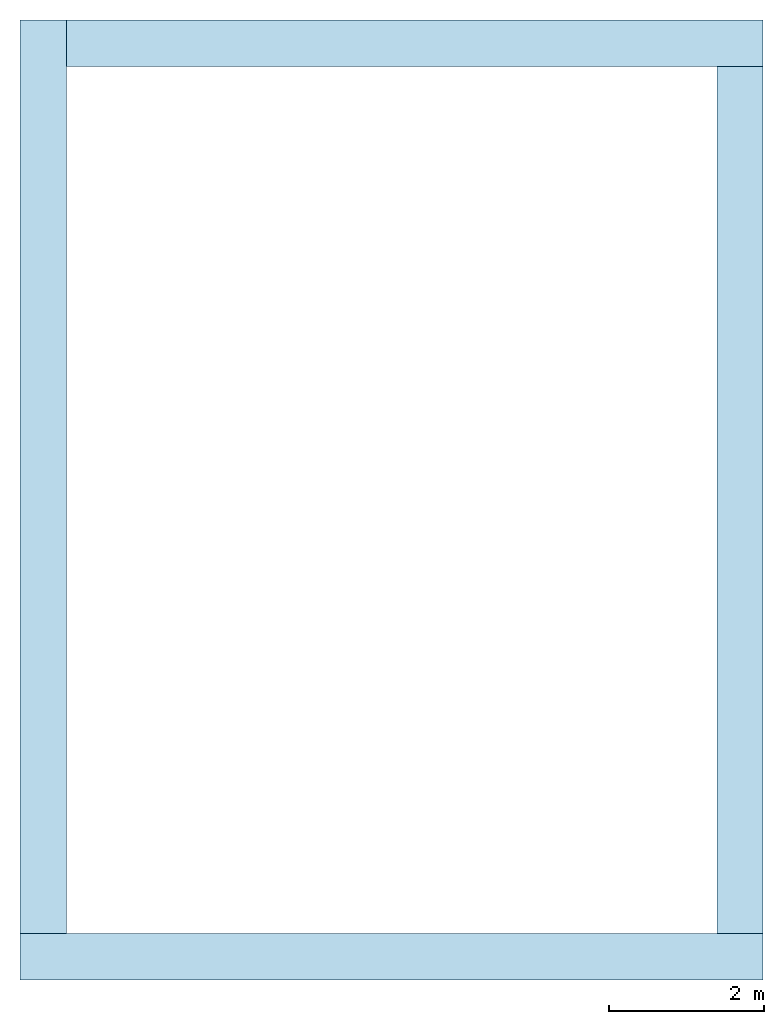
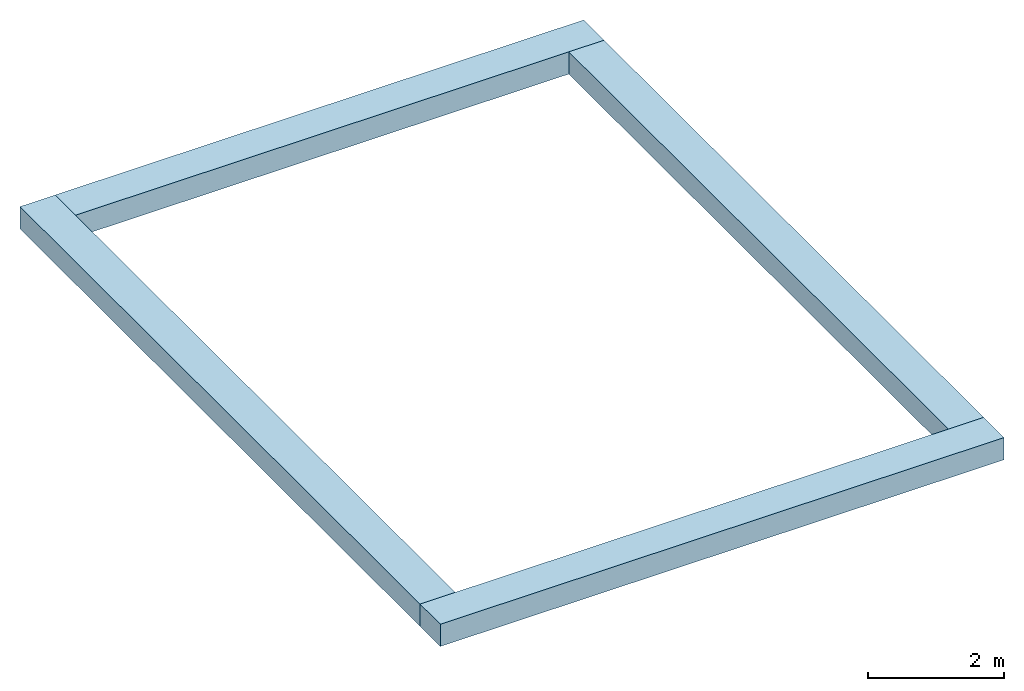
# One storey: 4 footings.
"""IFC2X3 building model written with IfcOpenShell, lengths in metres."""

from ifc_helpers import new_model, entity, si_unit, converted_unit, derived_unit, direction, frame, frame_2d, origin, place, context, subcontext, project, spatial, rectangle, extrude, material, element, save


model = new_model("IFC2X3")

# Units and contexts
model_context = context("Model", 3, precision=1e-05, world=origin(), true_north=direction((6.123031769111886e-17, 1.0)))
body_context = subcontext(model_context, "Body", "Model", "MODEL_VIEW")
ifc_project = project(units=[si_unit("LENGTHUNIT", "METRE"), si_unit("AREAUNIT", "SQUARE_METRE"), si_unit("VOLUMEUNIT", "CUBIC_METRE"), converted_unit("PLANEANGLEUNIT", "DEGREE", entity("IfcRatioMeasure", 0.017453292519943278), si_unit("PLANEANGLEUNIT", "RADIAN"), dimensions=[0, 0, 0, 0, 0, 0, 0]), si_unit("MASSUNIT", "GRAM", prefix="KILO"), derived_unit("MASSDENSITYUNIT", [(si_unit("MASSUNIT", "GRAM", prefix="KILO"), 1), (si_unit("LENGTHUNIT", "METRE"), -3)]), derived_unit("IONCONCENTRATIONUNIT", [(si_unit("MASSUNIT", "GRAM", prefix="KILO"), 1), (si_unit("LENGTHUNIT", "METRE"), -3)]), derived_unit("MOMENTOFINERTIAUNIT", [(si_unit("LENGTHUNIT", "METRE"), 4)]), si_unit("TIMEUNIT", "SECOND"), si_unit("FREQUENCYUNIT", "HERTZ"), si_unit("THERMODYNAMICTEMPERATUREUNIT", "DEGREE_CELSIUS"), derived_unit("THERMALTRANSMITTANCEUNIT", [(si_unit("MASSUNIT", "GRAM", prefix="KILO"), 1), (si_unit("THERMODYNAMICTEMPERATUREUNIT", "KELVIN"), -1), (si_unit("TIMEUNIT", "SECOND"), -3)]), derived_unit("THERMALCONDUCTANCEUNIT", [(si_unit("MASSUNIT", "GRAM", prefix="KILO"), 1), (si_unit("THERMODYNAMICTEMPERATUREUNIT", "KELVIN"), -1), (si_unit("TIMEUNIT", "SECOND"), -3), (si_unit("LENGTHUNIT", "METRE"), 1)]), derived_unit("VOLUMETRICFLOWRATEUNIT", [(si_unit("LENGTHUNIT", "METRE"), 3), (si_unit("TIMEUNIT", "SECOND"), -1)]), derived_unit("MASSFLOWRATEUNIT", [(si_unit("MASSUNIT", "GRAM", prefix="KILO"), 1), (si_unit("TIMEUNIT", "SECOND"), -1)]), derived_unit("ROTATIONALFREQUENCYUNIT", [(si_unit("TIMEUNIT", "SECOND"), -1)]), si_unit("ELECTRICCURRENTUNIT", "AMPERE"), si_unit("ELECTRICVOLTAGEUNIT", "VOLT"), si_unit("POWERUNIT", "WATT"), si_unit("FORCEUNIT", "NEWTON", prefix="KILO"), si_unit("ILLUMINANCEUNIT", "LUX"), si_unit("LUMINOUSFLUXUNIT", "LUMEN"), si_unit("LUMINOUSINTENSITYUNIT", "CANDELA"), derived_unit("USERDEFINED", [(si_unit("MASSUNIT", "GRAM", prefix="KILO"), -1), (si_unit("LENGTHUNIT", "METRE"), -2), (si_unit("TIMEUNIT", "SECOND"), 3), (si_unit("LUMINOUSFLUXUNIT", "LUMEN"), 1)]), derived_unit("USERDEFINED", [(si_unit("MASSUNIT", "GRAM", prefix="KILO"), 1), (si_unit("TIMEUNIT", "SECOND"), -3), (si_unit("LENGTHUNIT", "METRE"), 3), (si_unit("ELECTRICCURRENTUNIT", "AMPERE"), -2)]), derived_unit("SOUNDPOWERUNIT", [(si_unit("MASSUNIT", "GRAM", prefix="KILO"), 1), (si_unit("TIMEUNIT", "SECOND"), -3), (si_unit("LENGTHUNIT", "METRE"), 2)]), derived_unit("SOUNDPRESSUREUNIT", [(si_unit("MASSUNIT", "GRAM", prefix="KILO"), 1), (si_unit("LENGTHUNIT", "METRE"), -1), (si_unit("TIMEUNIT", "SECOND"), -2)]), derived_unit("LINEARVELOCITYUNIT", [(si_unit("LENGTHUNIT", "METRE"), 1), (si_unit("TIMEUNIT", "SECOND"), -1)]), si_unit("PRESSUREUNIT", "PASCAL"), derived_unit("USERDEFINED", [(si_unit("MASSUNIT", "GRAM", prefix="KILO"), 1), (si_unit("LENGTHUNIT", "METRE"), -2), (si_unit("TIMEUNIT", "SECOND"), -2)]), derived_unit("LINEARFORCEUNIT", [(si_unit("MASSUNIT", "GRAM", prefix="KILO"), 1), (si_unit("TIMEUNIT", "SECOND"), -2)]), derived_unit("PLANARFORCEUNIT", [(si_unit("MASSUNIT", "GRAM", prefix="KILO"), 1), (si_unit("LENGTHUNIT", "METRE"), -1), (si_unit("TIMEUNIT", "SECOND"), -2)]), derived_unit("SPECIFICHEATCAPACITYUNIT", [(si_unit("THERMODYNAMICTEMPERATUREUNIT", "KELVIN"), -1), (si_unit("LENGTHUNIT", "METRE"), 2), (si_unit("TIMEUNIT", "SECOND"), -2)]), derived_unit("HEATINGVALUEUNIT", [(si_unit("LENGTHUNIT", "METRE"), 2), (si_unit("TIMEUNIT", "SECOND"), -2)]), derived_unit("VAPORPERMEABILITYUNIT", [(si_unit("LENGTHUNIT", "METRE"), -1), (si_unit("TIMEUNIT", "SECOND"), 1)]), derived_unit("DYNAMICVISCOSITYUNIT", [(si_unit("MASSUNIT", "GRAM", prefix="KILO"), 1), (si_unit("TIMEUNIT", "SECOND"), -1), (si_unit("LENGTHUNIT", "METRE"), -1)]), derived_unit("THERMALEXPANSIONCOEFFICIENTUNIT", [(si_unit("THERMODYNAMICTEMPERATUREUNIT", "KELVIN"), -1)]), derived_unit("MODULUSOFELASTICITYUNIT", [(si_unit("MASSUNIT", "GRAM", prefix="KILO"), 1), (si_unit("LENGTHUNIT", "METRE"), -1), (si_unit("TIMEUNIT", "SECOND"), -2)]), derived_unit("ISOTHERMALMOISTURECAPACITYUNIT", [(si_unit("LENGTHUNIT", "METRE"), 3), (si_unit("MASSUNIT", "GRAM", prefix="KILO"), -1)]), derived_unit("MOISTUREDIFFUSIVITYUNIT", [(si_unit("TIMEUNIT", "SECOND"), -1), (si_unit("LENGTHUNIT", "METRE"), 2)])], contexts=[model_context])

# Site, building, storey
site_placement = place(None, frame((1.2553507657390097, -0.6266432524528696, -1.0397761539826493), z_axis=(0.0, 0.0, 1.0), x_axis=(-1.0, 0.0, 0.0)))
site = spatial("IfcSite", under=ifc_project, at=site_placement, Name="Default", CompositionType="ELEMENT")
building_placement = place(site_placement, origin())
building = spatial("IfcBuilding", under=site, at=building_placement, Name="MAISON D'HABITATION", CompositionType="ELEMENT")
storey_placement = place(building_placement, frame((0.0, 0.0, -0.1102238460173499)))
storey = spatial("IfcBuildingStorey", under=building, at=storey_placement, Name="Niveau ..", CompositionType="ELEMENT", Elevation=-0.1102238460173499)

# Footings
ifc_material = material(Name="Béton, coulé sur place")
footing_1_placement = place(storey_placement, origin())
element("IfcFooting", 1, at=footing_1_placement, inside=storey, material=ifc_material, Name="Semelle filante:Soubassement de soutènement - 300 x 600 x 300", ObjectType="Semelle filante:Soubassement de soutènement - 300 x 600 x 300", PredefinedType="STRIP_FOOTING", context=body_context, shape_type="SweptSolid", body=[
    extrude(rectangle(XDim=9.600000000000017, YDim=0.6000000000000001, at=frame_2d((-3.552713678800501e-15, 0.10000000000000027), x_axis=(1.0, 0.0))), frame((-0.2798669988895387, 3.1361830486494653, 0.1)), (0.0, 0.0, 1.0), 0.4),
])
footing_2_placement = place(storey_placement, origin())
element("IfcFooting", 2, at=footing_2_placement, inside=storey, material=ifc_material, Name="Semelle filante:Soubassement de soutènement - 300 x 600 x 300", ObjectType="Semelle filante:Soubassement de soutènement - 300 x 600 x 300", PredefinedType="STRIP_FOOTING", context=body_context, shape_type="SweptSolid", body=[
    extrude(rectangle(XDim=11.8, YDim=0.6000000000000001, at=frame_2d((1.0600000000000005, -0.05999999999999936), x_axis=(1.0, 0.0))), frame((4.160133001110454, -4.023816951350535, 0.1), z_axis=(0.0, 0.0, 1.0), x_axis=(0.0, 1.0, 0.0)), (0.0, 0.0, 1.0), 0.4),
])
footing_3_placement = place(storey_placement, origin())
element("IfcFooting", 3, at=footing_3_placement, inside=storey, material=ifc_material, Name="Semelle filante:Soubassement de soutènement - 300 x 600 x 300", ObjectType="Semelle filante:Soubassement de soutènement - 300 x 600 x 300", PredefinedType="STRIP_FOOTING", context=body_context, shape_type="SweptSolid", body=[
    extrude(rectangle(XDim=8.999999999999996, YDim=0.6000000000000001, at=frame_2d((0.7800000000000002, -0.060000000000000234), x_axis=(1.0, 0.0))), frame((-1.359866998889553, -8.503816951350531, 0.1)), (0.0, 0.0, 1.0), 0.4),
])
footing_4_placement = place(storey_placement, origin())
element("IfcFooting", 4, at=footing_4_placement, inside=storey, material=ifc_material, Name="Semelle filante:Soubassement de soutènement - 300 x 600 x 300", ObjectType="Semelle filante:Soubassement de soutènement - 300 x 600 x 300", PredefinedType="STRIP_FOOTING", context=body_context, shape_type="SweptSolid", body=[
    extrude(rectangle(XDim=11.199999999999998, YDim=0.6000000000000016, at=frame_2d((-8.881784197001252e-16, 0.0), x_axis=(1.0, 0.0))), frame((-4.779866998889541, -2.663816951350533, 0.1), z_axis=(0.0, 0.0, 1.0), x_axis=(0.0, -1.0, 0.0)), (0.0, 0.0, 1.0), 0.4),
])

save(model, "model.ifc")
